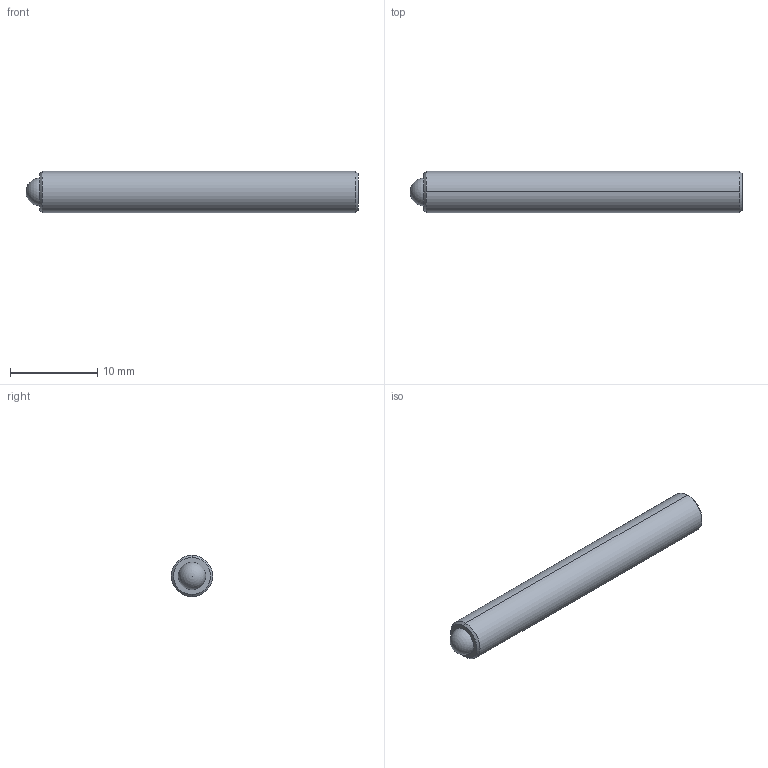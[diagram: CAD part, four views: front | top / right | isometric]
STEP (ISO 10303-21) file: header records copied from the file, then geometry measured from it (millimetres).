
FILE_DESCRIPTION (( 'STEP AP214' ), '1' );
FILE_NAME ('TS187-100-1500.STEP', '2013-02-11T16:02:07', ( 'workpc' ), ( 'Microsoft' ), 'SwSTEP 2.0', 'SolidWorks 2013', '' );
FILE_SCHEMA (( 'AUTOMOTIVE_DESIGN' ));
Length unit declared in the file: inch
Products named in the file (1): TS187-100-1500
Bounding box: 38.1 x 4.75 x 4.75 mm (x, y, z)
Volume: 642.4 mm3; surface area: 638.9 mm2
Topology: 2 solids, 2 shells, 20 faces, 45 edges, 29 vertices
Faces by surface type: plane 10, cylinder 4, cone 4, sphere 2
Entity records: 599 total; most frequent: DIRECTION 96, CARTESIAN_POINT 87, ORIENTED_EDGE 80, EDGE_CURVE 40, AXIS2_PLACEMENT_3D 35, VERTEX_POINT 26, LINE 26, VECTOR 26
